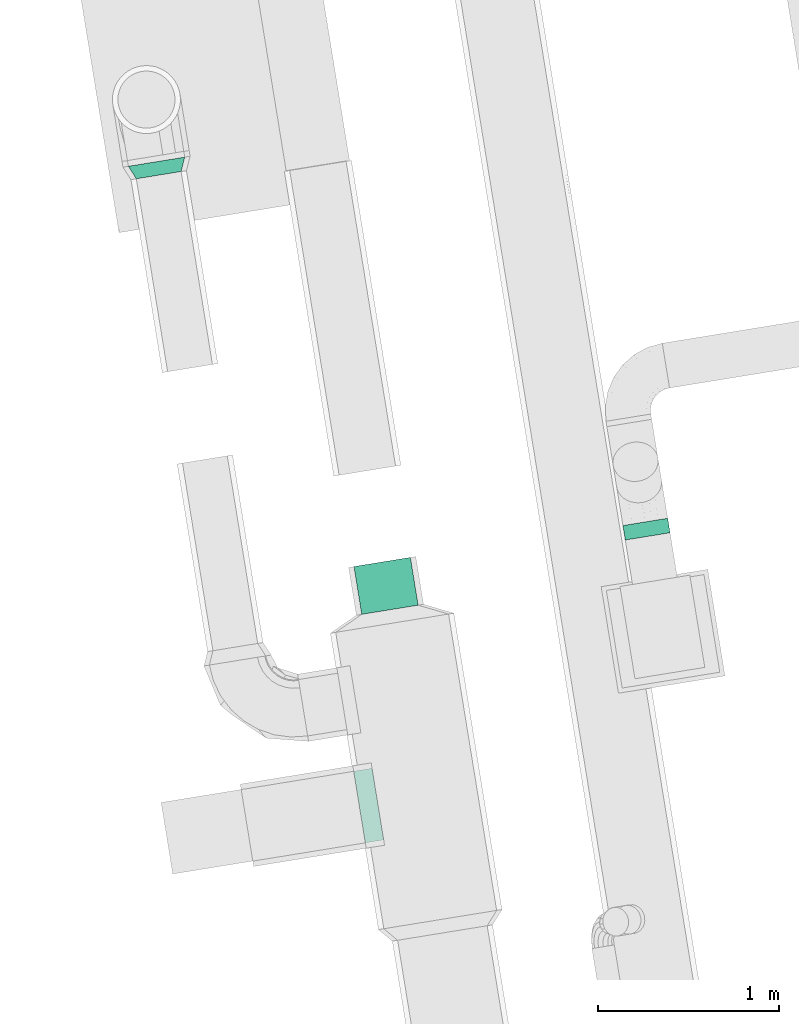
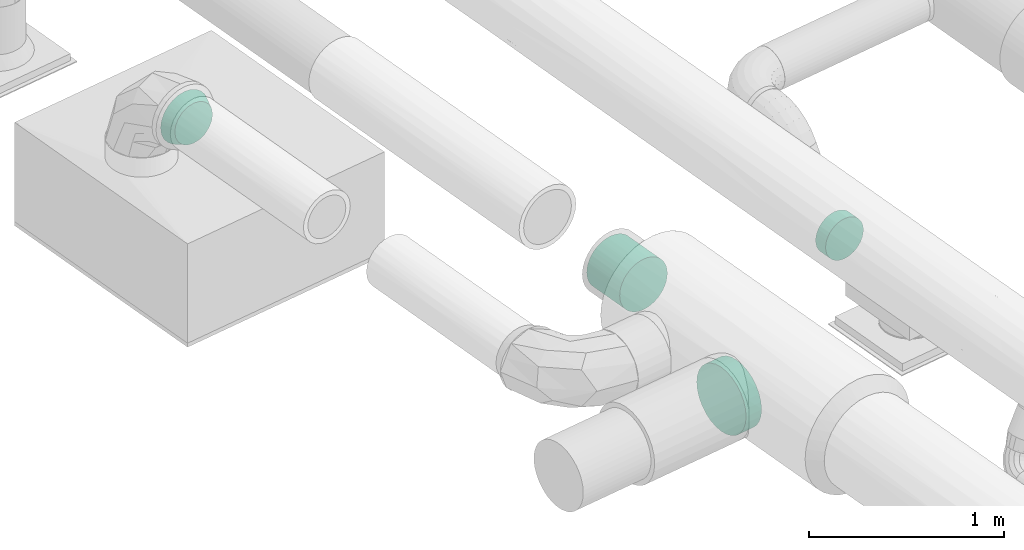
# One storey, part 20 of 39: 2 flow fittings, 2 flow segments.
"""IFC2X3 building model written with IfcOpenShell, lengths in millimetres."""

from ifc_helpers import new_model, entity, si_unit, converted_unit, derived_unit, direction, frame, origin, origin_with_axes, origin_2d_with_axis, place, context, subcontext, project, spatial, circle, extrude, faceted_brep, source, transform, mapped, material, type_object, element, save


model = new_model("IFC2X3")

# Units and contexts
plan_context = context("Plan", 3, precision=1e-05, world=origin_with_axes())
model_context = context("Model", 3, precision=0.01, world=origin(), true_north=direction((6.12323399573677e-17, 1.0)))
body_context = subcontext(model_context, "Body", "Model", "MODEL_VIEW")
ifc_project = project(units=[converted_unit("PLANEANGLEUNIT", "DEGREE", entity("IfcPositiveLengthMeasure", 0.0174532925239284), si_unit("PLANEANGLEUNIT", "RADIAN"), dimensions=[0, 0, 0, 0, 0, 0, 0]), si_unit("AREAUNIT", "SQUARE_METRE"), si_unit("LENGTHUNIT", "METRE", prefix="MILLI"), si_unit("MASSUNIT", "GRAM", prefix="KILO"), si_unit("POWERUNIT", "WATT"), si_unit("PRESSUREUNIT", "PASCAL", prefix="KILO"), si_unit("FORCEUNIT", "NEWTON", prefix="KILO"), si_unit("ELECTRICVOLTAGEUNIT", "VOLT"), si_unit("ELECTRICCURRENTUNIT", "AMPERE"), si_unit("THERMODYNAMICTEMPERATUREUNIT", "DEGREE_CELSIUS"), si_unit("TIMEUNIT", "SECOND"), si_unit("VOLUMEUNIT", "CUBIC_METRE"), derived_unit("LINEARVELOCITYUNIT", [(si_unit("LENGTHUNIT", "METRE"), 1), (si_unit("TIMEUNIT", "SECOND"), -1)]), derived_unit("VOLUMETRICFLOWRATEUNIT", [(si_unit("VOLUMEUNIT", "CUBIC_METRE"), 1), (si_unit("TIMEUNIT", "SECOND"), -1)]), derived_unit("THERMALTRANSMITTANCEUNIT", [(si_unit("POWERUNIT", "WATT"), 1), (si_unit("THERMODYNAMICTEMPERATUREUNIT", "KELVIN"), -1), (si_unit("AREAUNIT", "SQUARE_METRE"), -1)]), derived_unit("SOUNDPRESSUREUNIT", [(si_unit("PRESSUREUNIT", "PASCAL"), 1)])], contexts=[model_context, plan_context])

# Site, building, storey
site_placement = place(None, frame((-0.00071070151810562, 0.00438415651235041, 0.0), z_axis=(0.0, 0.0, 1.0), x_axis=(-0.160236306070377, 0.987078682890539, 0.0)))
site = spatial("IfcSite", under=ifc_project, at=site_placement, Name="Default", CompositionType="ELEMENT")
building_placement = place(site_placement, origin_with_axes())
building = spatial("IfcBuilding", under=site, at=building_placement, CompositionType="ELEMENT")
storey_placement = place(building_placement, frame((0.0, 0.0, 58999.9999999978), z_axis=(0.0, 0.0, 1.0), x_axis=(1.0, 0.0, 0.0)))
storey = spatial("IfcBuildingStorey", under=building, at=storey_placement, Name="Nivå F", CompositionType="ELEMENT", Elevation=58999.9999999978)

# Flow fittings
ifc_material_1 = material(Name="<Unnamed>")
duct_fitting_type_1 = type_object("IfcDuctFittingType", Name="magicirc_tapoutlet_1:magicirc_tapoutlet_001", PredefinedType="NOTDEFINED", material=ifc_material_1)
shared_shape_1 = source(origin(), body_context, "Body", "Brep", [
    faceted_brep([(-77.7341295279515, 0.0, -200.0), (-77.7341295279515, -44.5041867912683, -194.985582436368), (-77.7341295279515, -86.776747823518, -180.193773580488), (-77.7341295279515, -124.697960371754, -156.36629649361), (-77.7341295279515, -156.366296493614, -124.697960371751), (-77.7341295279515, -180.193773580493, -86.7767478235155), (-77.7341295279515, -194.985582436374, -44.5041867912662), (-77.7341295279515, -200.0, 0.0), (-77.7341295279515, -194.985582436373, 44.5041867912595), (-77.7341295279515, -180.193773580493, 86.7767478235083), (-77.7341295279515, -156.366296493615, 124.697960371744), (-77.7341295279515, -124.697960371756, 156.366296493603), (-77.7341295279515, -86.7767478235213, 180.193773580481), (-77.7341295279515, -44.5041867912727, 194.985582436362), (-77.7341295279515, 0.0, 200.0), (-77.7341295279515, 44.5041867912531, 194.985582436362), (-77.7341295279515, 86.7767478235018, 180.193773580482), (-77.7341295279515, 124.697960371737, 156.366296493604), (-77.7341295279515, 156.366296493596, 124.697960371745), (-77.7341295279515, 180.193773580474, 86.7767478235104), (-77.7341295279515, 194.985582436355, 44.5041867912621), (-77.7341295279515, 200.0, 0.0), (-77.7341295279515, 194.985582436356, -44.5041867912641), (-77.7341295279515, 180.193773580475, -86.7767478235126), (-77.7341295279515, 156.366296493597, -124.697960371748), (-77.7341295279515, 124.697960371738, -156.366296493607), (-77.7341295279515, 86.7767478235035, -180.193773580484), (-77.7341295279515, 44.504186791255, -194.985582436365), (0.0, 0.0, 200.0), (25.0, 0.0, 200.0), (25.0, 44.5041867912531, 194.985582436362), (0.0, 44.5041867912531, 194.985582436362), (25.0, 86.7767478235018, 180.193773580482), (0.0, 86.7767478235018, 180.193773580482), (0.0, 124.697960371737, 156.366296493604), (25.0, 124.697960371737, 156.366296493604), (25.0, 156.366296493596, 124.697960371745), (0.0, 156.366296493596, 124.697960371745), (25.0, 180.193773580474, 86.7767478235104), (0.0, 180.193773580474, 86.7767478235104), (0.0, 194.985582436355, 44.5041867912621), (25.0, 194.985582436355, 44.5041867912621), (25.0, 200.0, 0.0), (0.0, 200.0, 0.0), (25.0, 194.985582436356, -44.5041867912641), (0.0, 194.985582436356, -44.5041867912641), (25.0, 180.193773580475, -86.7767478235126), (0.0, 180.193773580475, -86.7767478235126), (0.0, 156.366296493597, -124.697960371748), (25.0, 156.366296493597, -124.697960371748), (25.0, 124.697960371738, -156.366296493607), (0.0, 124.697960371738, -156.366296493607), (25.0, 86.7767478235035, -180.193773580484), (0.0, 86.7767478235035, -180.193773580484), (25.0, 44.504186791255, -194.985582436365), (0.0, 44.504186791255, -194.985582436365), (0.0, 0.0, -200.0), (25.0, 0.0, -200.0), (25.0, -44.5041867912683, -194.985582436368), (0.0, -44.5041867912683, -194.985582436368), (25.0, -86.776747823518, -180.193773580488), (0.0, -86.776747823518, -180.193773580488), (0.0, -124.697960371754, -156.36629649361), (25.0, -124.697960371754, -156.36629649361), (25.0, -156.366296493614, -124.697960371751), (0.0, -156.366296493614, -124.697960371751), (25.0, -180.193773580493, -86.7767478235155), (0.0, -180.193773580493, -86.7767478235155), (25.0, -194.985582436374, -44.5041867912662), (0.0, -194.985582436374, -44.5041867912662), (25.0, -200.0, 0.0), (0.0, -200.0, 0.0), (25.0, -194.985582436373, 44.5041867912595), (0.0, -194.985582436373, 44.5041867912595), (25.0, -180.193773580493, 86.7767478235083), (0.0, -180.193773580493, 86.7767478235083), (0.0, -156.366296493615, 124.697960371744), (25.0, -156.366296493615, 124.697960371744), (25.0, -124.697960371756, 156.366296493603), (0.0, -124.697960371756, 156.366296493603), (25.0, -86.7767478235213, 180.193773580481), (0.0, -86.7767478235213, 180.193773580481), (0.0, -44.5041867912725, 194.985582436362), (25.0, -44.5041867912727, 194.985582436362)], [[[0, 1, 2, 3, 4, 5, 6, 7, 8, 9, 10, 11, 12, 13, 14, 15, 16, 17, 18, 19, 20, 21, 22, 23, 24, 25, 26, 27]], [[14, 28, 29, 30, 31, 15]], [[31, 30, 32, 33, 16, 15]], [[34, 17, 16, 33, 32, 35]], [[34, 35, 36, 37, 18, 17]], [[18, 37, 36, 38, 39, 19]], [[40, 41, 42, 43, 21, 20]], [[20, 19, 39, 38, 41, 40]], [[21, 43, 42, 44, 45, 22]], [[45, 44, 46, 47, 23, 22]], [[48, 24, 23, 47, 46, 49]], [[48, 49, 50, 51, 25, 24]], [[25, 51, 50, 52, 53, 26]], [[53, 52, 54, 55, 27, 26]], [[56, 0, 27, 55, 54, 57]], [[0, 56, 57, 58, 59, 1]], [[59, 58, 60, 61, 2, 1]], [[62, 3, 2, 61, 60, 63]], [[62, 63, 64, 65, 4, 3]], [[65, 64, 66, 67, 5, 4]], [[67, 66, 68, 69, 6, 5]], [[7, 6, 69, 68, 70, 71]], [[7, 71, 70, 72, 73, 8]], [[73, 72, 74, 75, 9, 8]], [[76, 10, 9, 75, 74, 77]], [[76, 77, 78, 79, 11, 10]], [[79, 78, 80, 81, 12, 11]], [[82, 83, 29, 28, 14, 13]], [[81, 80, 83, 82, 13, 12]], [[57, 54, 52, 50, 49, 46, 44, 42, 41, 38, 36, 35, 32, 30, 29, 83, 80, 78, 77, 74, 72, 70, 68, 66, 64, 63, 60, 58]]]),
    faceted_brep([(25.0, 0.0, -200.0), (25.0, 44.5041867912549, -194.985582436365), (25.0, 86.7767478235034, -180.193773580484), (25.0, 124.697960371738, -156.366296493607), (25.0, 156.366296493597, -124.697960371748), (25.0, 180.193773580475, -86.7767478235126), (25.0, 194.985582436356, -44.5041867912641), (25.0, 200.0, 0.0), (25.0, 194.985582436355, 44.5041867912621), (25.0, 180.193773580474, 86.7767478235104), (25.0, 156.366296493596, 124.697960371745), (25.0, 124.697960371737, 156.366296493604), (25.0, 86.7767478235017, 180.193773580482), (25.0, 44.504186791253, 194.985582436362), (25.0, 0.0, 200.0), (25.0, -44.5041867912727, 194.985582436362), (25.0, -86.7767478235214, 180.193773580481), (25.0, -124.697960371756, 156.366296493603), (25.0, -156.366296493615, 124.697960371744), (25.0, -180.193773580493, 86.7767478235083), (25.0, -194.985582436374, 44.5041867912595), (25.0, -200.0, 0.0), (25.0, -194.985582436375, -44.5041867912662), (25.0, -180.193773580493, -86.7767478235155), (25.0, -156.366296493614, -124.697960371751), (25.0, -124.697960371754, -156.36629649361), (25.0, -86.7767478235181, -180.193773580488), (25.0, -44.5041867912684, -194.985582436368), (0.0, 0.0, 200.0), (0.0, 44.5041867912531, 194.985582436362), (-77.7341295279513, 44.5041867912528, 194.985582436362), (-77.7341295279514, 0.0, 200.0), (0.0, 86.7767478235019, 180.193773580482), (-77.7341295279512, 86.7767478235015, 180.193773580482), (0.0, 124.697960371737, 156.366296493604), (-77.734129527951, 124.697960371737, 156.366296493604), (0.0, 156.366296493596, 124.697960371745), (-77.7341295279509, 156.366296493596, 124.697960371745), (0.0, 180.193773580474, 86.7767478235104), (-77.7341295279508, 180.193773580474, 86.7767478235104), (0.0, 194.985582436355, 44.5041867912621), (-77.7341295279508, 194.985582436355, 44.5041867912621), (0.0, 200.0, 0.0), (-77.7341295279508, 200.0, 0.0), (0.0, 194.985582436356, -44.5041867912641), (-77.7341295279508, 194.985582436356, -44.5041867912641), (0.0, 180.193773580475, -86.7767478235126), (-77.7341295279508, 180.193773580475, -86.7767478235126), (0.0, 156.366296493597, -124.697960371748), (-77.7341295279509, 156.366296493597, -124.697960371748), (0.0, 124.697960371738, -156.366296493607), (-77.734129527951, 124.697960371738, -156.366296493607), (0.0, 86.7767478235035, -180.193773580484), (-77.7341295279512, 86.7767478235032, -180.193773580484), (0.0, 44.5041867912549, -194.985582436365), (-77.7341295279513, 44.5041867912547, -194.985582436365), (0.0, 0.0, -200.0), (-77.7341295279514, 0.0, -200.0), (0.0, -44.5041867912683, -194.985582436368), (-77.7341295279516, -44.5041867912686, -194.985582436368), (0.0, -86.776747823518, -180.193773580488), (-77.7341295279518, -86.7767478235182, -180.193773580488), (0.0, -124.697960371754, -156.36629649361), (-77.7341295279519, -124.697960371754, -156.36629649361), (0.0, -156.366296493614, -124.697960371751), (-77.734129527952, -156.366296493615, -124.697960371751), (0.0, -180.193773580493, -86.7767478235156), (-77.734129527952, -180.193773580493, -86.7767478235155), (0.0, -200.0, 0.0), (-77.7341295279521, -200.0, 0.0), (-77.7341295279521, -194.985582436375, -44.5041867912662), (0.0, -194.985582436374, -44.5041867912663), (0.0, -194.985582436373, 44.5041867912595), (-77.7341295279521, -194.985582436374, 44.5041867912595), (0.0, -180.193773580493, 86.7767478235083), (-77.734129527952, -180.193773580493, 86.7767478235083), (0.0, -156.366296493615, 124.697960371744), (-77.734129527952, -156.366296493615, 124.697960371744), (0.0, -124.697960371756, 156.366296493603), (-77.7341295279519, -124.697960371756, 156.366296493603), (0.0, -86.7767478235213, 180.193773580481), (-77.7341295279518, -86.7767478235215, 180.193773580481), (0.0, -44.5041867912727, 194.985582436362), (-77.7341295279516, -44.5041867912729, 194.985582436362)], [[[0, 1, 2, 3, 4, 5, 6, 7, 8, 9, 10, 11, 12, 13, 14, 15, 16, 17, 18, 19, 20, 21, 22, 23, 24, 25, 26, 27]], [[28, 14, 13, 29, 30, 31]], [[13, 12, 32, 33, 30, 29]], [[11, 34, 35, 33, 32, 12]], [[11, 10, 36, 37, 35, 34]], [[36, 10, 9, 38, 39, 37]], [[9, 8, 40, 41, 39, 38]], [[7, 42, 43, 41, 40, 8]], [[42, 7, 6, 44, 45, 43]], [[6, 5, 46, 47, 45, 44]], [[4, 48, 49, 47, 46, 5]], [[4, 3, 50, 51, 49, 48]], [[3, 2, 52, 53, 51, 50]], [[2, 1, 54, 55, 53, 52]], [[56, 57, 55, 54, 1, 0]], [[56, 0, 27, 58, 59, 57]], [[27, 26, 60, 61, 59, 58]], [[25, 62, 63, 61, 60, 26]], [[25, 24, 64, 65, 63, 62]], [[24, 23, 66, 67, 65, 64]], [[22, 21, 68, 69, 70, 71]], [[23, 22, 71, 70, 67, 66]], [[68, 21, 20, 72, 73, 69]], [[20, 19, 74, 75, 73, 72]], [[18, 76, 77, 75, 74, 19]], [[18, 17, 78, 79, 77, 76]], [[78, 17, 16, 80, 81, 79]], [[16, 15, 82, 83, 81, 80]], [[14, 28, 31, 83, 82, 15]], [[57, 59, 61, 63, 65, 67, 70, 69, 73, 75, 77, 79, 81, 83, 31, 30, 33, 35, 37, 39, 41, 43, 45, 47, 49, 51, 53, 55]]]),
    faceted_brep([(-77.7341295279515, 0.0, -200.0), (-77.7341295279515, -44.5041867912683, -194.985582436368), (-77.7341295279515, -86.776747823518, -180.193773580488), (-77.7341295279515, -124.697960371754, -156.36629649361), (-77.7341295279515, -156.366296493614, -124.697960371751), (-77.7341295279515, -180.193773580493, -86.7767478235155), (-77.7341295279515, -194.985582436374, -44.5041867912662), (-77.7341295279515, -200.0, 0.0), (-77.7341295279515, -194.985582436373, 44.5041867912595), (-77.7341295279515, -180.193773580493, 86.7767478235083), (-77.7341295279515, -156.366296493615, 124.697960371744), (-77.7341295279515, -124.697960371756, 156.366296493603), (-77.7341295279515, -86.7767478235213, 180.193773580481), (-77.7341295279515, -44.5041867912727, 194.985582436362), (-77.7341295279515, 0.0, 200.0), (-77.7341295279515, 44.5041867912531, 194.985582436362), (-77.7341295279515, 86.7767478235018, 180.193773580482), (-77.7341295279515, 124.697960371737, 156.366296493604), (-77.7341295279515, 156.366296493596, 124.697960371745), (-77.7341295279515, 180.193773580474, 86.7767478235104), (-77.7341295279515, 194.985582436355, 44.5041867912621), (-77.7341295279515, 200.0, 0.0), (-77.7341295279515, 194.985582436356, -44.5041867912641), (-77.7341295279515, 180.193773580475, -86.7767478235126), (-77.7341295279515, 156.366296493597, -124.697960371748), (-77.7341295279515, 124.697960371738, -156.366296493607), (-77.7341295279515, 86.7767478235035, -180.193773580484), (-77.7341295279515, 44.504186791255, -194.985582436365), (0.0, 0.0, 200.0), (25.0, 0.0, 200.0), (25.0, 44.5041867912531, 194.985582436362), (0.0, 44.5041867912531, 194.985582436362), (25.0, 86.7767478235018, 180.193773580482), (0.0, 86.7767478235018, 180.193773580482), (0.0, 124.697960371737, 156.366296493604), (25.0, 124.697960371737, 156.366296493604), (25.0, 156.366296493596, 124.697960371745), (0.0, 156.366296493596, 124.697960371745), (25.0, 180.193773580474, 86.7767478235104), (0.0, 180.193773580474, 86.7767478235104), (0.0, 194.985582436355, 44.5041867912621), (25.0, 194.985582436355, 44.5041867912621), (25.0, 200.0, 0.0), (0.0, 200.0, 0.0), (25.0, 194.985582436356, -44.5041867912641), (0.0, 194.985582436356, -44.5041867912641), (25.0, 180.193773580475, -86.7767478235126), (0.0, 180.193773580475, -86.7767478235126), (0.0, 156.366296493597, -124.697960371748), (25.0, 156.366296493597, -124.697960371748), (25.0, 124.697960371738, -156.366296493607), (0.0, 124.697960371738, -156.366296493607), (25.0, 86.7767478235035, -180.193773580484), (0.0, 86.7767478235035, -180.193773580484), (25.0, 44.504186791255, -194.985582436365), (0.0, 44.504186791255, -194.985582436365), (0.0, 0.0, -200.0), (25.0, 0.0, -200.0), (25.0, -44.5041867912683, -194.985582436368), (0.0, -44.5041867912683, -194.985582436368), (25.0, -86.776747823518, -180.193773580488), (0.0, -86.776747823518, -180.193773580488), (0.0, -124.697960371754, -156.36629649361), (25.0, -124.697960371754, -156.36629649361), (25.0, -156.366296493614, -124.697960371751), (0.0, -156.366296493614, -124.697960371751), (25.0, -180.193773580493, -86.7767478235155), (0.0, -180.193773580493, -86.7767478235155), (25.0, -194.985582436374, -44.5041867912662), (0.0, -194.985582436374, -44.5041867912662), (25.0, -200.0, 0.0), (0.0, -200.0, 0.0), (25.0, -194.985582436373, 44.5041867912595), (0.0, -194.985582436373, 44.5041867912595), (25.0, -180.193773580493, 86.7767478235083), (0.0, -180.193773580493, 86.7767478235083), (0.0, -156.366296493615, 124.697960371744), (25.0, -156.366296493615, 124.697960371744), (25.0, -124.697960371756, 156.366296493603), (0.0, -124.697960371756, 156.366296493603), (25.0, -86.7767478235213, 180.193773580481), (0.0, -86.7767478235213, 180.193773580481), (0.0, -44.5041867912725, 194.985582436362), (25.0, -44.5041867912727, 194.985582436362)], [[[0, 1, 2, 3, 4, 5, 6, 7, 8, 9, 10, 11, 12, 13, 14, 15, 16, 17, 18, 19, 20, 21, 22, 23, 24, 25, 26, 27]], [[14, 28, 29, 30, 31, 15]], [[31, 30, 32, 33, 16, 15]], [[34, 17, 16, 33, 32, 35]], [[34, 35, 36, 37, 18, 17]], [[18, 37, 36, 38, 39, 19]], [[40, 41, 42, 43, 21, 20]], [[20, 19, 39, 38, 41, 40]], [[21, 43, 42, 44, 45, 22]], [[45, 44, 46, 47, 23, 22]], [[48, 24, 23, 47, 46, 49]], [[48, 49, 50, 51, 25, 24]], [[25, 51, 50, 52, 53, 26]], [[53, 52, 54, 55, 27, 26]], [[56, 0, 27, 55, 54, 57]], [[0, 56, 57, 58, 59, 1]], [[59, 58, 60, 61, 2, 1]], [[62, 3, 2, 61, 60, 63]], [[62, 63, 64, 65, 4, 3]], [[65, 64, 66, 67, 5, 4]], [[67, 66, 68, 69, 6, 5]], [[7, 6, 69, 68, 70, 71]], [[7, 71, 70, 72, 73, 8]], [[73, 72, 74, 75, 9, 8]], [[76, 10, 9, 75, 74, 77]], [[76, 77, 78, 79, 11, 10]], [[79, 78, 80, 81, 12, 11]], [[82, 83, 29, 28, 14, 13]], [[81, 80, 83, 82, 13, 12]], [[57, 54, 52, 50, 49, 46, 44, 42, 41, 38, 36, 35, 32, 30, 29, 83, 80, 78, 77, 74, 72, 70, 68, 66, 64, 63, 60, 58]]]),
])
flow_fitting_1_placement = place(storey_placement, frame((776007.222116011, -501863.834706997, 3130.0), z_axis=(0.0, 0.0, 1.0), x_axis=(0.0, 1.0, 0.0)))
element("IfcFlowFitting", 1, at=flow_fitting_1_placement, inside=storey, type_object=duct_fitting_type_1, material=ifc_material_1, Name="magicirc_tapoutlet_1:magicirc_tapoutlet_001", ObjectType="magicirc_tapoutlet_1:magicirc_tapoutlet_001", context=body_context, shape_type="MappedRepresentation", body=[
    mapped(shared_shape_1, transform((0.0, 0.0, 0.0), scale=1.0)),
])
ifc_material_2 = material(Name="Material_Duct")
duct_fitting_type_2 = type_object("IfcDuctFittingType", Name="magicirc_reduction_001:magicirc_reduction_001", PredefinedType="NOTDEFINED", material=ifc_material_2)
shared_shape_2 = source(origin(), body_context, "Body", "Brep", [
    faceted_brep([(75.0, -125.0, 0.0), (75.0, -118.882064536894, -38.6271242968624), (75.0, -101.127124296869, -73.473156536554), (75.0, -73.4731565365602, -101.127124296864), (75.0, -38.627124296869, -118.882064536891), (75.0, 0.0, -125.0), (75.0, 38.6271242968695, -118.882064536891), (75.0, 73.4731565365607, -101.127124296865), (75.0, 101.12712429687, -73.4731565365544), (75.0, 118.882064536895, -38.6271242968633), (75.0, 125.0, 0.0), (75.0, 118.882064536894, 38.6271242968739), (75.0, 101.127124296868, 73.4731565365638), (75.0, 73.4731565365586, 101.127124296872), (75.0, 38.6271242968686, 118.882064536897), (75.0, 0.0, 125.0), (75.0, -38.6271242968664, 118.882064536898), (75.0, -73.4731565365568, 101.127124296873), (75.0, -101.127124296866, 73.4731565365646), (75.0, -118.882064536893, 38.6271242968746), (0.0, 157.499999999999, 0.0), (0.0, 152.133317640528, -40.7639996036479), (0.0, 136.399001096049, -78.7500000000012), (0.0, 111.369318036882, -111.369318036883), (0.0, 78.7500000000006, -136.399001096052), (0.0, 40.7639996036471, -152.133317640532), (0.0, 0.0, -157.500000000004), (0.0, -40.7639996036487, -152.133317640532), (0.0, -78.7500000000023, -136.399001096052), (0.0, -111.369318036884, -111.369318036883), (0.0, -136.399001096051, -78.7500000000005), (0.0, -152.133317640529, -40.7639996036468), (0.0, -157.500000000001, 0.0), (0.0, -152.133317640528, 40.7639996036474), (0.0, -136.399001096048, 78.7499999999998), (0.0, -111.36931803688, 111.36931803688), (0.0, -78.7499999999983, 136.399001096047), (0.0, -40.7639996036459, 152.133317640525), (0.0, 0.0, 157.499999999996), (0.0, 40.7639996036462, 152.133317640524), (0.0, 78.7499999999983, 136.399001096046), (0.0, 111.369318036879, 111.369318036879), (0.0, 136.399001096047, 78.7499999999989), (0.0, 152.133317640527, 40.7639996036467)], [[[0, 1, 2, 3, 4, 5, 6, 7, 8, 9, 10, 11, 12, 13, 14, 15, 16, 17, 18, 19]], [[20, 21, 22, 23, 24, 25, 26, 27, 28, 29, 30, 31, 32, 33, 34, 35, 36, 37, 38, 39, 40, 41, 42, 43]], [[22, 9, 8]], [[21, 10, 9]], [[24, 7, 6]], [[5, 25, 6]], [[8, 7, 23]], [[26, 25, 5]], [[9, 22, 21]], [[21, 20, 10]], [[8, 23, 22]], [[7, 24, 23]], [[24, 6, 25]], [[27, 5, 4]], [[3, 28, 4]], [[1, 0, 31]], [[2, 1, 30]], [[29, 3, 2]], [[28, 27, 4]], [[28, 3, 29]], [[2, 30, 29]], [[1, 31, 30]], [[32, 31, 0]], [[5, 27, 26]], [[34, 19, 18]], [[33, 0, 19]], [[36, 17, 16]], [[15, 37, 16]], [[18, 17, 35]], [[38, 37, 15]], [[19, 34, 33]], [[33, 32, 0]], [[18, 35, 34]], [[17, 36, 35]], [[36, 16, 37]], [[39, 15, 14]], [[13, 40, 14]], [[11, 10, 43]], [[12, 11, 42]], [[41, 13, 12]], [[40, 39, 14]], [[40, 13, 41]], [[12, 42, 41]], [[11, 43, 42]], [[20, 43, 10]], [[15, 39, 38]]]),
])
flow_fitting_2_placement = place(storey_placement, frame((779697.619644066, -501304.709617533, 3130.0), z_axis=(0.0, 0.0, 1.0), x_axis=(-1.0, 0.0, 0.0)))
element("IfcFlowFitting", 2, at=flow_fitting_2_placement, inside=storey, type_object=duct_fitting_type_2, material=ifc_material_2, Name="magicirc_reduction_001:magicirc_reduction_001", ObjectType="magicirc_reduction_001:magicirc_reduction_001", context=body_context, shape_type="MappedRepresentation", body=[
    mapped(shared_shape_2, transform((0.0, 0.0, 0.0), scale=1.0)),
])

# Flow segments
duct_segment_type = type_object("IfcDuctSegmentType", Name="Round Duct:KK001T - Spiro kanaler, Forsinket stål", PredefinedType="NOTDEFINED")
flow_segment_1_placement = place(storey_placement, origin_with_axes())
element("IfcFlowSegment", 3, at=flow_segment_1_placement, inside=storey, type_object=duct_segment_type, Name="Round Duct:KK001T - Spiro kanaler, Forsinket stål", ObjectType="Round Duct:KK001T - Spiro kanaler, Forsinket stål", context=body_context, shape_type="SweptSolid", body=[
    extrude(circle(Radius=157.5, at=origin_2d_with_axis()), frame((777053.610474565, -502178.834705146, 3130.03415297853), z_axis=(1.0, 0.0, 0.0), x_axis=(0.0, -1.0, 0.0)), (0.0, 0.0, 1.0), 266.866288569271),
])
flow_segment_2_placement = place(storey_placement, origin_with_axes())
element("IfcFlowSegment", 4, at=flow_segment_2_placement, inside=storey, type_object=duct_segment_type, Name="Round Duct:KK001T - Spiro kanaler, Forsinket stål", ObjectType="Round Duct:KK001T - Spiro kanaler, Forsinket stål", context=body_context, shape_type="SweptSolid", body=[
    extrude(circle(Radius=125.0, at=origin_2d_with_axis()), frame((777225.119644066, -503645.980498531, 2673.0), z_axis=(1.0, 0.0, 0.0), x_axis=(0.0, -1.0, 0.0)), (0.0, 0.0, 1.0), 80.9765555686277),
])

save(model, "model.ifc")
